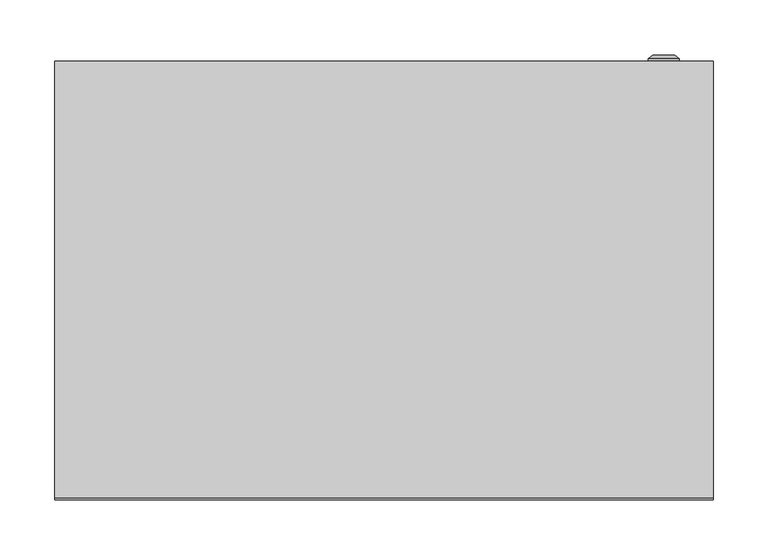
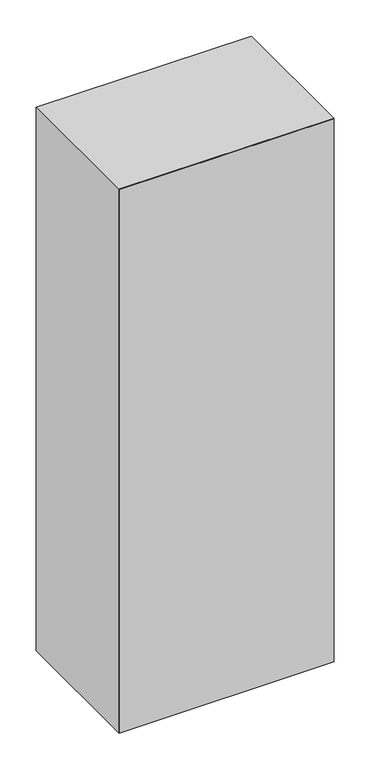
"""IFC4 building model written with IfcOpenShell, lengths in millimetres: proxy geometry, ЩМП : ЩМП-16.6.4-0_1600х600х400."""

from ifc_helpers import new_model, si_unit, frame, origin, origin_with_axes, place, context, project, spatial, polyline, circle_curve, outline, extrude, source, transform, mapped, element, save
from ifc_brep_helpers import plane_surface, cylinder_surface, revolved_surface, advanced_brep


def electrical_equipment_26f1c62e(model_context):
    return source(origin(), model_context, "Body", "SolidModel", [
        advanced_brep(
        [(240.669873, 400.0, 800.0), (269.330127, 400.0, 800.0), (255.0, 400.0, 800.0), (240.669873, 402.366592, 800.0), (269.330127, 402.366592, 800.0), (245.0, 406.0, 800.0), (265.0, 406.0, 800.0), (253.1080471, 406.0, 800.0), (256.8919529, 406.0, 800.0), (253.1080471, 404.9822294, 800.0), (256.8919529, 404.9822294, 800.0), (255.0, 404.9822294, 800.0)],
        [
            (0, 1, circle_curve(frame((255.0, 400.0, 800.0), z_axis=(0.0, -1.0, 0.0), x_axis=(1.0, 0.0, 0.0)), 14.330127)),
            (1, 2),
            (2, 0),
            (1, 0, circle_curve(frame((255.0, 400.0, 800.0), z_axis=(0.0, -1.0, 0.0), x_axis=(1.0, 0.0, 0.0)), 14.330127)),
            (3, 4, circle_curve(frame((255.0, 402.366592, 800.0), z_axis=(0.0, -1.0, 0.0), x_axis=(1.0, 0.0, 0.0)), 14.330127)),
            (4, 1),
            (0, 3),
            (4, 3, circle_curve(frame((255.0, 402.366592, 800.0), z_axis=(0.0, -1.0, 0.0), x_axis=(1.0, 0.0, 0.0)), 14.330127)),
            (5, 6, circle_curve(frame((255.0, 406.0, 800.0), z_axis=(0.0, -1.0, 0.0), x_axis=(1.0, 0.0, 0.0)), 10.0)),
            (6, 4),
            (3, 5),
            (6, 5, circle_curve(frame((255.0, 406.0, 800.0), z_axis=(0.0, -1.0, 0.0), x_axis=(1.0, 0.0, 0.0)), 10.0)),
            (7, 8, circle_curve(frame((255.0, 406.0, 800.0), z_axis=(0.0, -1.0, 0.0), x_axis=(1.0, 0.0, 0.0)), 1.8919529)),
            (8, 6),
            (5, 7),
            (8, 7, circle_curve(frame((255.0, 406.0, 800.0), z_axis=(0.0, -1.0, 0.0), x_axis=(1.0, 0.0, 0.0)), 1.8919529)),
            (9, 10, circle_curve(frame((255.0, 404.9822294, 800.0), z_axis=(0.0, -1.0, 0.0), x_axis=(1.0, 0.0, 0.0)), 1.8919529)),
            (10, 8),
            (7, 9),
            (10, 9, circle_curve(frame((255.0, 404.9822294, 800.0), z_axis=(0.0, -1.0, 0.0), x_axis=(1.0, 0.0, 0.0)), 1.8919529)),
            (11, 10),
            (9, 11),
        ],
        [
            plane_surface(frame((255.0, 400.0, 800.0), z_axis=(0.0, -1.0, 0.0), x_axis=(1.0, 0.0, 0.0))),
            cylinder_surface(frame((255.0, 413.1348851, 800.0), z_axis=(0.0, 1.0, 0.0), x_axis=(1.0, 0.0, 0.0)), 14.330127),
            revolved_surface(polyline([(269.330127, 402.366592, 800.0), (265.0, 406.0, 800.0)]), (255.0, 413.1348851, 800.0), (0.0, 1.0, 0.0)),
            plane_surface(frame((255.0, 406.0, 800.0), z_axis=(0.0, 1.0, 0.0), x_axis=(1.0, 0.0, 0.0))),
            revolved_surface(polyline([(256.8919529, 406.0, 800.0), (256.8919529, 404.9822294, 800.0)]), (255.0, 413.1348851, 800.0), (0.0, 1.0, 0.0)),
            plane_surface(frame((255.0, 404.9822294, 800.0), z_axis=(0.0, 1.0, 0.0), x_axis=(1.0, 0.0, 0.0))),
        ],
        [
            (0, [[1, 2, 3]]),
            (0, [[4, -3, -2]]),
            (1, [[5, 6, -1, 7]]),
            (1, [[8, -7, -4, -6]]),
            (2, [[9, 10, -5, 11]]),
            (2, [[12, -11, -8, -10]]),
            (3, [[13, 14, -9, 15]]),
            (3, [[16, -15, -12, -14]]),
            (4, [[17, 18, -13, 19]]),
            (4, [[20, -19, -16, -18]]),
            (5, [[21, -17, 22]]),
            (5, [[-22, -20, -21]]),
        ],
    ),
        extrude(outline(polyline([(281.5, 375.0), (-281.5, 375.0), (-281.5, 400.0), (281.5, 400.0), (281.5, 375.0)])), frame((0.0, 0.0, 18.5), z_axis=(0.0, 0.0, 1.0), x_axis=(1.0, 0.0, 0.0)), (0.0, 0.0, 1.0), 1563.0),
        extrude(outline(polyline([(1600.0, -300.0033905), (0.0, -300.0033905), (0.0, 299.9966095), (1600.0, 299.9966095), (1600.0, -300.0033905)]), holes=[polyline([(1565.0, -265.0033905), (1565.0, 264.9966095), (35.0, 264.9966095), (35.0, -265.0033905), (1565.0, -265.0033905)])]), frame((0.0, 2.0, 0.0), z_axis=(0.0, 1.0, 0.0), x_axis=(0.0, 0.0, 1.0)), (0.0, 0.0, 1.0), 398.0),
        extrude(outline(polyline([(300.0, 0.0), (-300.0, 0.0), (-300.0, 2.0), (300.0, 2.0), (300.0, 0.0)])), origin_with_axes(), (0.0, 0.0, 1.0), 1600.0),
    ])


if __name__ == "__main__":
    model = new_model("IFC4")
    model_context = context("Model", 3, world=origin())
    ifc_project = project(units=[si_unit("LENGTHUNIT", "METRE", prefix="MILLI")], contexts=[model_context])
    site = spatial("IfcSite", under=ifc_project)
    building = spatial("IfcBuilding", under=site)
    placement = place(None, origin())
    electrical_equipment_shape = electrical_equipment_26f1c62e(model_context)
    element("IfcBuildingElementProxy", 1, Name="ЩМП : ЩМП-16.6.4-0_1600х600х400", ObjectType="ЩМП : ЩМП-16.6.4-0_1600х600х400", at=placement, inside=building, context=model_context, shape_type="MappedRepresentation", body=[
        mapped(electrical_equipment_shape, transform((0.0, 0.0, 0.0), x_axis=(1.0, 0.0, 0.0), y_axis=(0.0, 1.0, 0.0), z_axis=(0.0, 0.0, 1.0))),
    ])
    save(model, "model.ifc")
